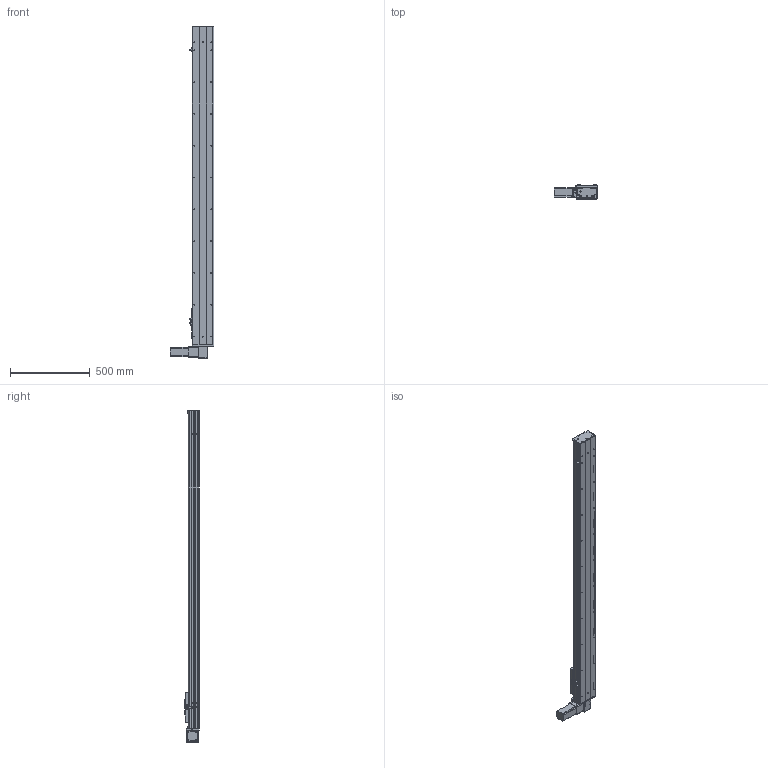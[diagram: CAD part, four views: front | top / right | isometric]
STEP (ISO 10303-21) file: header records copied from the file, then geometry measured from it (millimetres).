
FILE_DESCRIPTION (( 'STEP AP203' ), '1' );
FILE_NAME ('Y135CB-D90-S1700-BD-P400W.STEP', '2020-02-19T03:48:31', ( '微软用户' ), ( '微软中国' ), 'SwSTEP 2.0', 'SolidWorks 2017', '' );
FILE_SCHEMA (( 'CONFIG_CONTROL_DESIGN' ));
Length unit declared in the file: millimetre
Products named in the file (16): Y100-135俋离換覜ん--; 135CB---遴掛极.-; Y135C-陔俋离換覜結え-; 35CB---喘謫眊楊擘啣; 5C--俋欶; 0B-埴倛裔啣; C-雄赽釱--; 0B-源倛裔啣; Y10B--々湍喘謫眊--666; san松下电机400不带刹车----; 0B-薊粣ん眊; 5CB --掛极耜裔啣-; Y135CB-D90-S1700-BD-P400W; C-詩湍揤踡え-陔; 135CB--詩湍-CE; Y135CB-耜裔
Assembly tree (19 placements, depth 2):
  Y135CB-D90-S1700-BD-P400W
    Y135CB-耜裔
    135CB---遴掛极.-
    35CB---喘謫眊楊擘啣
    0B-埴倛裔啣
    0B-源倛裔啣
    san松下电机400不带刹车----
    5CB --掛极耜裔啣-  x2
    C-詩湍揤踡え-陔  x2
    135CB--詩湍-CE
    Y100-135俋离換覜ん--  x3
    Y135C-陔俋离換覜結え-
    5C--俋欶
    C-雄赽釱--
    Y10B--々湍喘謫眊--666
    0B-薊粣ん眊
Bounding box: 272 x 91 x 2088 mm (x, y, z)
Volume: 6204516.4 mm3; surface area: 2402314.8 mm2
Topology: 19 solids, 19 shells, 871 faces, 2338 edges, 1548 vertices
Faces by surface type: cylinder 440, plane 415, cone 16
Entity records: 26814 total; most frequent: DIRECTION 4470, CARTESIAN_POINT 4423, ORIENTED_EDGE 4152, EDGE_CURVE 2076, AXIS2_PLACEMENT_3D 1643, VERTEX_POINT 1376, LINE 1184, VECTOR 1184
